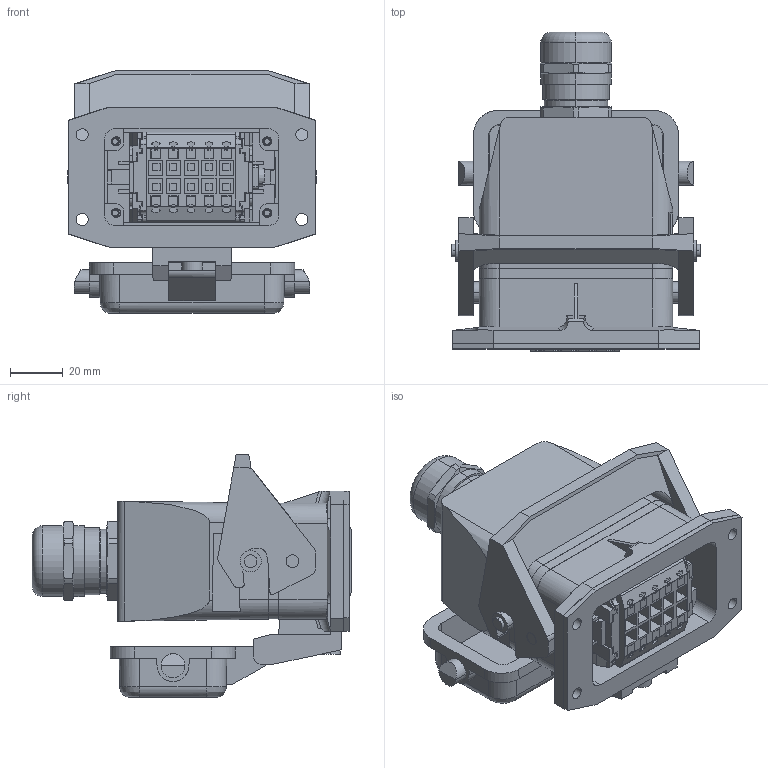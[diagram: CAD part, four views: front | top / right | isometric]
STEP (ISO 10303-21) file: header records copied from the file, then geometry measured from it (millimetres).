
FILE_DESCRIPTION(('SolidDesigner STEP Export'),'2;1');
FILE_NAME('1416345_HC_STA_B10PT_BWSC_LT_M25_ELCAL-select.stp','2015-03-17T14:36:46',(''),(''),'Creo Elements/Direct Modeling STEP processor for AP214 (Solid Model)','Creo Elements/Direct Modeling 18.1B 29-Sep-2012 (C) Parametric Technology GmbH','');
FILE_SCHEMA(('AUTOMOTIVE_DESIGN { 1 0 10303 214 1 1 1 1 }'));
Length unit declared in the file: millimetre
Products named in the file (6): 1411165_G_INS_M25_M68N_NNES_S-select; 1411321_HC_STA_B10_BWSC_ELC_AL-select; 1412630_HC_STA_B10_HLFS_1TTM25_EL_AL-select; 1407729_HC_B_10_I_PT_F-select; 1407730_HC_B_10_I_PT_M-select; 1416345_HC_STA_B10PT_BWSC_LT_M25_ELCAL-select
Assembly tree (5 placements, depth 2):
  1416345_HC_STA_B10PT_BWSC_LT_M25_ELCAL-select
    1407730_HC_B_10_I_PT_M-select
    1407729_HC_B_10_I_PT_F-select
    1412630_HC_STA_B10_HLFS_1TTM25_EL_AL-select
    1411321_HC_STA_B10_BWSC_ELC_AL-select
    1411165_G_INS_M25_M68N_NNES_S-select
Bounding box: 93.8 x 120.78 x 91.67 mm (x, y, z)
Volume: 320623.3 mm3; surface area: 112677.7 mm2
Topology: 5 solids, 5 shells, 2866 faces, 8104 edges, 5381 vertices
Faces by surface type: plane 2095, cylinder 617, cone 104, extrusion 38, bspline 8, torus 4
Entity records: 116016 total; most frequent: CARTESIAN_POINT 20051, ORIENTED_EDGE 16210, DIRECTION 14015, EDGE_CURVE 8105, VECTOR 6277, LINE 6239, VERTEX_POINT 5383, AXIS2_PLACEMENT_3D 3869
